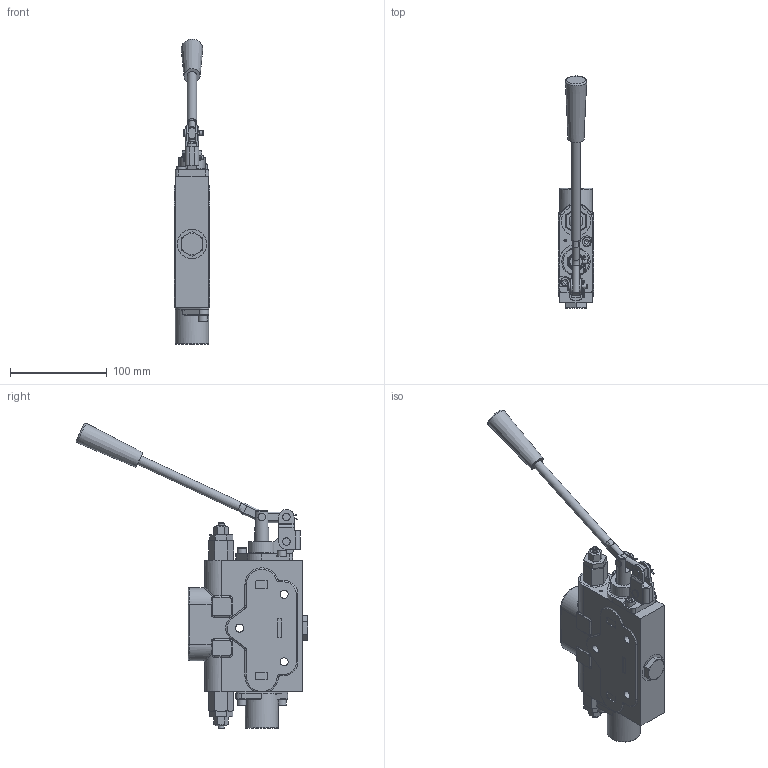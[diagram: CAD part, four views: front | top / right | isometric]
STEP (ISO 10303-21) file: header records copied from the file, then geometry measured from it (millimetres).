
FILE_DESCRIPTION((''),'2;1');
FILE_NAME('C:\Vault\Workspace\z_ShellModels\SV\SVR1ES1GG_Shell.stp','2012-02-09T13:28:23',('PetersW'),(''),'Autodesk Inventor 2011','Autodesk Inventor 2011','');
FILE_SCHEMA(('AUTOMOTIVE_DESIGN { 1 0 10303 214 1 1 1 1 }'));
Length unit declared in the file: inch
Products named in the file (1): Part51
Bounding box: 36.5 x 239.55 x 316.01 mm (x, y, z)
Volume: 590381.5 mm3; surface area: 105518.3 mm2
Topology: 9 solids, 34 shells, 986 faces, 2446 edges, 1554 vertices
Faces by surface type: plane 507, cylinder 272, cone 107, torus 76, bspline 20, sphere 4
Full cylindrical faces by diameter (mm): 2.381 x1, 2.388 x2, 2.667 x1, 4.661 x3, 4.75 x8, 4.801 x2, 4.826 x7, 4.978 x5, 6.096 x3, 6.35 x4, 6.401 x2, 6.731 x6, 7.137 x2, 7.798 x1, 7.925 x3, 8.331 x3, 9.525 x6, 9.931 x1, 11.125 x2, 12.764 x1, 14.275 x1, 15.875 x6, 15.938 x2, 16.751 x1, 16.764 x4, 16.929 x2, 17.043 x2, 17.066 x3, 17.475 x1, 17.501 x5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
Entity records: 29516 total; most frequent: CARTESIAN_POINT 6279, DIRECTION 4657, ORIENTED_EDGE 4304, EDGE_CURVE 2152, AXIS2_PLACEMENT_3D 1726, VERTEX_POINT 1460, EDGE_LOOP 1280, VECTOR 1205
